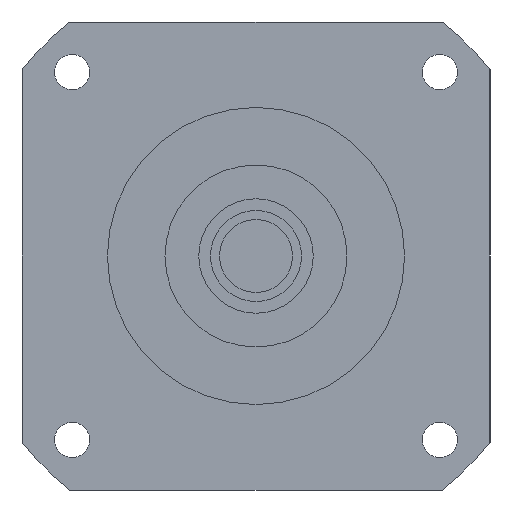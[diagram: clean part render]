
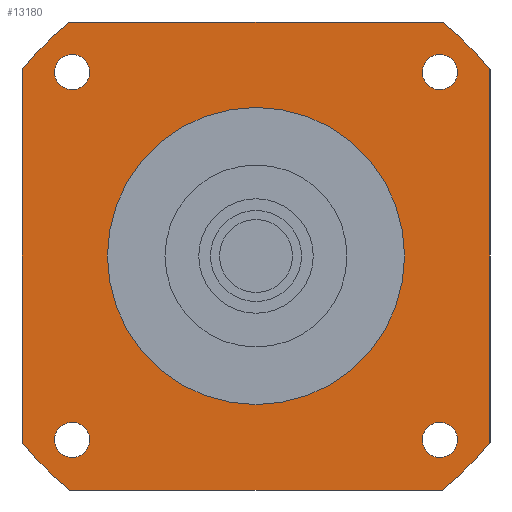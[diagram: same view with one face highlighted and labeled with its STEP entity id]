
A CAD part, left-side view. The second image highlights one B-rep face of the part: STEP entity #13180.
In plain terms, the highlighted planar face has unit normal (-1, 0, 0) as drawn and (0, 0, -1) by its records, which use the part's own axes.
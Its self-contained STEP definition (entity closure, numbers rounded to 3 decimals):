
#10190=CARTESIAN_POINT('',(-71.589,90.,-91.7));
#10200=VERTEX_POINT('',#10190);
#10380=CARTESIAN_POINT('',(-90.,71.589,-91.7));
#10390=VERTEX_POINT('',#10380);
#10420=CARTESIAN_POINT('',(0.,0.,
-91.7));
#10430=DIRECTION('',(0.,0.,-1.));
#10440=DIRECTION('',(1.,0.,0.));
#10450=AXIS2_PLACEMENT_3D('',#10420,#10430,#10440);
#10460=CIRCLE('',#10450,115.);
#10470=EDGE_CURVE('',#10390,#10200,#10460,.T.);
#11590=CARTESIAN_POINT('',(57.15,0.,-91.7));
#11600=VERTEX_POINT('',#11590);
#11630=CARTESIAN_POINT('',(0.,0.,
-91.7));
#11640=DIRECTION('',(0.,0.,1.));
#11650=DIRECTION('',(0.,1.,0.));
#11660=AXIS2_PLACEMENT_3D('',#11630,#11640,#11650);
#11670=CIRCLE('',#11660,57.15);
#11680=CARTESIAN_POINT('',(0.,57.15,-91.7));
#11690=VERTEX_POINT('',#11680);
#11700=EDGE_CURVE('',#11600,#11690,#11670,.T.);
#11720=CARTESIAN_POINT('',(-57.15,0.,-91.7));
#11730=VERTEX_POINT('',#11720);
#11740=EDGE_CURVE('',#11690,#11730,#11670,.T.);
#11870=CARTESIAN_POINT('',(90.,90.,-91.7));
#11880=DIRECTION('',(0.,0.,-1.));
#11890=DIRECTION('',(1.,0.,0.));
#11900=AXIS2_PLACEMENT_3D('',#11870,#11880,#11890);
#11910=PLANE('',#11900);
#11920=CARTESIAN_POINT('',(-70.711,-70.711,-91.7));
#11930=DIRECTION('',(0.,0.,-1.));
#11940=DIRECTION('',(0.,-1.,0.));
#11950=AXIS2_PLACEMENT_3D('',#11920,#11930,#11940);
#11960=CIRCLE('',#11950,6.75);
#11970=CARTESIAN_POINT('',(-70.711,-77.461,-91.7));
#11980=VERTEX_POINT('',#11970);
#11990=CARTESIAN_POINT('',(-70.711,-63.961,-91.7));
#12000=VERTEX_POINT('',#11990);
#12010=EDGE_CURVE('',#11980,#12000,#11960,.T.);
#12020=ORIENTED_EDGE('',*,*,#12010,.F.);
#12030=EDGE_CURVE('',#12000,#11980,#11960,.T.);
#12040=ORIENTED_EDGE('',*,*,#12030,.F.);
#12050=EDGE_LOOP('',(#12040,#12020));
#12060=FACE_BOUND('',#12050,.T.);
#12070=CARTESIAN_POINT('',(-70.711,70.711,-91.7));
#12080=DIRECTION('',(0.,0.,-1.));
#12090=DIRECTION('',(-1.,0.,0.));
#12100=AXIS2_PLACEMENT_3D('',#12070,#12080,#12090);
#12110=CIRCLE('',#12100,6.75);
#12120=CARTESIAN_POINT('',(-77.461,70.711,-91.7));
#12130=VERTEX_POINT('',#12120);
#12140=CARTESIAN_POINT('',(-63.961,70.711,-91.7));
#12150=VERTEX_POINT('',#12140);
#12160=EDGE_CURVE('',#12130,#12150,#12110,.T.);
#12170=ORIENTED_EDGE('',*,*,#12160,.F.);
#12180=EDGE_CURVE('',#12150,#12130,#12110,.T.);
#12190=ORIENTED_EDGE('',*,*,#12180,.F.);
#12200=EDGE_LOOP('',(#12190,#12170));
#12210=FACE_BOUND('',#12200,.T.);
#12220=CARTESIAN_POINT('',(70.711,70.711,-91.7));
#12230=DIRECTION('',(0.,0.,-1.));
#12240=DIRECTION('',(0.,1.,0.));
#12250=AXIS2_PLACEMENT_3D('',#12220,#12230,#12240);
#12260=CIRCLE('',#12250,6.75);
#12270=CARTESIAN_POINT('',(70.711,77.461,-91.7));
#12280=VERTEX_POINT('',#12270);
#12290=CARTESIAN_POINT('',(70.711,63.961,-91.7));
#12300=VERTEX_POINT('',#12290);
#12310=EDGE_CURVE('',#12280,#12300,#12260,.T.);
#12320=ORIENTED_EDGE('',*,*,#12310,.F.);
#12330=EDGE_CURVE('',#12300,#12280,#12260,.T.);
#12340=ORIENTED_EDGE('',*,*,#12330,.F.);
#12350=EDGE_LOOP('',(#12340,#12320));
#12360=FACE_BOUND('',#12350,.T.);
#12370=EDGE_CURVE('',#11730,#11600,#11670,.T.);
#12380=ORIENTED_EDGE('',*,*,#12370,.T.);
#12390=ORIENTED_EDGE('',*,*,#11740,.T.);
#12400=ORIENTED_EDGE('',*,*,#11700,.T.);
#12410=EDGE_LOOP('',(#12400,#12390,#12380));
#12420=FACE_BOUND('',#12410,.T.);
#12430=CARTESIAN_POINT('',(-90.,90.,-91.7));
#12440=DIRECTION('',(1.,0.,0.));
#12450=VECTOR('',#12440,1000.);
#12460=LINE('',#12430,#12450);
#12470=CARTESIAN_POINT('',(71.589,90.,-91.7));
#12480=VERTEX_POINT('',#12470);
#12490=EDGE_CURVE('',#10200,#12480,#12460,.T.);
#12500=ORIENTED_EDGE('',*,*,#12490,.T.);
#12510=ORIENTED_EDGE('',*,*,#10470,.T.);
#12520=CARTESIAN_POINT('',(-90.,-90.,-91.7));
#12530=DIRECTION('',(0.,1.,0.));
#12540=VECTOR('',#12530,1000.);
#12550=LINE('',#12520,#12540);
#12560=CARTESIAN_POINT('',(-90.,-71.589,-91.7));
#12570=VERTEX_POINT('',#12560);
#12580=EDGE_CURVE('',#12570,#10390,#12550,.T.);
#12590=ORIENTED_EDGE('',*,*,#12580,.T.);
#12600=CARTESIAN_POINT('',(0.,0.,
-91.7));
#12610=DIRECTION('',(0.,0.,-1.));
#12620=DIRECTION('',(1.,0.,0.));
#12630=AXIS2_PLACEMENT_3D('',#12600,#12610,#12620);
#12640=CIRCLE('',#12630,115.);
#12650=CARTESIAN_POINT('',(-71.589,-90.,-91.7));
#12660=VERTEX_POINT('',#12650);
#12670=EDGE_CURVE('',#12660,#12570,#12640,.T.);
#12680=ORIENTED_EDGE('',*,*,#12670,.T.);
#12690=CARTESIAN_POINT('',(90.,-90.,-91.7));
#12700=DIRECTION('',(-1.,0.,0.));
#12710=VECTOR('',#12700,1000.);
#12720=LINE('',#12690,#12710);
#12730=CARTESIAN_POINT('',(71.589,-90.,-91.7));
#12740=VERTEX_POINT('',#12730);
#12750=EDGE_CURVE('',#12740,#12660,#12720,.T.);
#12760=ORIENTED_EDGE('',*,*,#12750,.T.);
#12770=CARTESIAN_POINT('',(0.,0.,
-91.7));
#12780=DIRECTION('',(0.,0.,-1.));
#12790=DIRECTION('',(1.,0.,0.));
#12800=AXIS2_PLACEMENT_3D('',#12770,#12780,#12790);
#12810=CIRCLE('',#12800,115.);
#12820=CARTESIAN_POINT('',(90.,-71.589,-91.7));
#12830=VERTEX_POINT('',#12820);
#12840=EDGE_CURVE('',#12830,#12740,#12810,.T.);
#12850=ORIENTED_EDGE('',*,*,#12840,.T.);
#12860=CARTESIAN_POINT('',(90.,90.,-91.7));
#12870=DIRECTION('',(0.,-1.,0.));
#12880=VECTOR('',#12870,1000.);
#12890=LINE('',#12860,#12880);
#12900=CARTESIAN_POINT('',(90.,71.589,-91.7));
#12910=VERTEX_POINT('',#12900);
#12920=EDGE_CURVE('',#12910,#12830,#12890,.T.);
#12930=ORIENTED_EDGE('',*,*,#12920,.T.);
#12940=CARTESIAN_POINT('',(0.,0.,
-91.7));
#12950=DIRECTION('',(0.,0.,-1.));
#12960=DIRECTION('',(1.,0.,0.));
#12970=AXIS2_PLACEMENT_3D('',#12940,#12950,#12960);
#12980=CIRCLE('',#12970,115.);
#12990=EDGE_CURVE('',#12480,#12910,#12980,.T.);
#13000=ORIENTED_EDGE('',*,*,#12990,.T.);
#13010=EDGE_LOOP('',(#13000,#12930,#12850,#12760,#12680,#12590,#12510,
#12500));
#13020=FACE_OUTER_BOUND('',#13010,.T.);
#13030=CARTESIAN_POINT('',(70.711,-70.711,-91.7));
#13040=DIRECTION('',(0.,0.,-1.));
#13050=DIRECTION('',(1.,0.,0.));
#13060=AXIS2_PLACEMENT_3D('',#13030,#13040,#13050);
#13070=CIRCLE('',#13060,6.75);
#13080=CARTESIAN_POINT('',(77.461,-70.711,-91.7));
#13090=VERTEX_POINT('',#13080);
#13100=CARTESIAN_POINT('',(63.961,-70.711,-91.7));
#13110=VERTEX_POINT('',#13100);
#13120=EDGE_CURVE('',#13090,#13110,#13070,.T.);
#13130=ORIENTED_EDGE('',*,*,#13120,.F.);
#13140=EDGE_CURVE('',#13110,#13090,#13070,.T.);
#13150=ORIENTED_EDGE('',*,*,#13140,.F.);
#13160=EDGE_LOOP('',(#13150,#13130));
#13170=FACE_BOUND('',#13160,.T.);
#13180=ADVANCED_FACE('',(#12060,#12210,#12360,#12420,#13020,#13170),
#11910,.T.);
